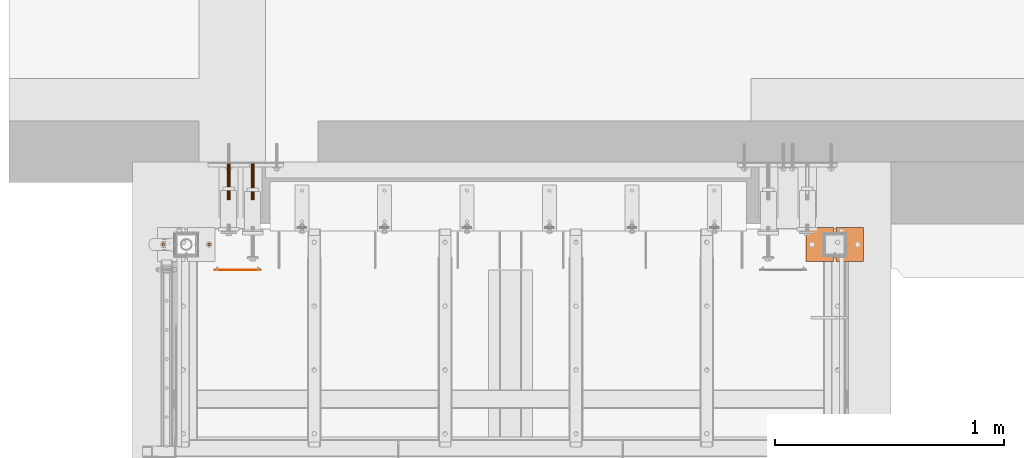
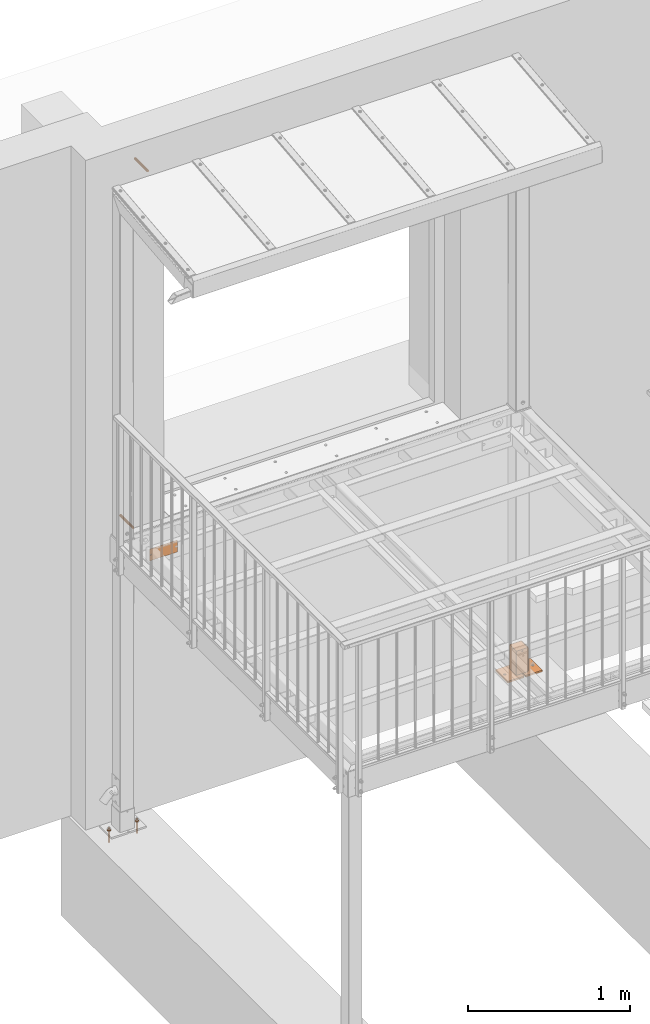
# One storey, part 95 of 116: 6 proxies.
"""IFC2X3 building model written with IfcOpenShell, lengths in millimetres."""

from ifc_helpers import new_model, entity, si_unit, converted_unit, origin_with_axes, place, context, project, spatial, faceted_brep, material, element, save


model = new_model("IFC2X3")

# Units and contexts
model_context = context("Model", 3, precision=1e-09, world=origin_with_axes())
ifc_project = project(units=[si_unit("LENGTHUNIT", "METRE", prefix="MILLI"), si_unit("AREAUNIT", "SQUARE_METRE"), si_unit("VOLUMEUNIT", "CUBIC_METRE"), converted_unit("PLANEANGLEUNIT", "DEGREE", entity("IfcPlaneAngleMeasure", 0.01745329), si_unit("PLANEANGLEUNIT", "RADIAN"), dimensions=[0, 0, 0, 0, 0, 0, 0])], contexts=[model_context])

# Site, building, storey
site_placement = place(None, origin_with_axes())
site = spatial("IfcSite", under=ifc_project, at=site_placement, Name="Site", CompositionType="ELEMENT")
building_placement = place(site_placement, origin_with_axes())
building = spatial("IfcBuilding", under=site, at=building_placement, Name="Struktur 1", CompositionType="ELEMENT")
storey_placement = place(building_placement, origin_with_axes())
storey = spatial("IfcBuildingStorey", under=building, at=storey_placement, Name="Default Storey", CompositionType="ELEMENT", Elevation=0.0)

# Proxies
ifc_material = material(Name="Kein")
proxy_1_placement = place(None, origin_with_axes())
element("IfcBuildingElementProxy", 1, at=proxy_1_placement, inside=storey, material=ifc_material, ObjectType="-", context=model_context, shape_type="Brep", body=[
    faceted_brep([(58275.050134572, 11962.358883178, -2009.0), (58275.050134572, 11962.358883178, -1997.0), (58273.978203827, 11966.359383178, -1997.0), (58273.978203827, 11966.359383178, -2009.0), (58271.049634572, 11969.287952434, -1997.0), (58271.049634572, 11969.287952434, -2009.0), (58273.978203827, 11958.358383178, -2009.0), (58273.978203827, 11958.358383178, -1997.0), (58271.049634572, 11955.429813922, -2009.0), (58271.049634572, 11955.429813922, -1997.0), (58292.049134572, 11887.358883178, -1997.0), (58292.049134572, 12037.358883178, -1997.0), (58172.049134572, 12037.358883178, -1997.0), (58172.049134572, 11887.358883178, -1997.0), (58267.049134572, 11954.357883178, -1997.0), (58263.048634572, 11955.429813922, -1997.0), (58260.120065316, 11958.358383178, -1997.0), (58259.048134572, 11962.358883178, -1997.0), (58260.120065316, 11966.359383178, -1997.0), (58263.048634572, 11969.287952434, -1997.0), (58267.049134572, 11970.359883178, -1997.0), (58267.049134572, 11970.359883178, -2009.0), (58292.049134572, 12037.358883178, -2009.0), (58292.049134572, 11887.358883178, -2009.0), (58172.049134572, 11887.358883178, -2009.0), (58172.049134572, 12037.358883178, -2009.0), (58263.048634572, 11969.287952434, -2009.0), (58260.120065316, 11966.359383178, -2009.0), (58259.048134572, 11962.358883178, -2009.0), (58260.120065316, 11958.358383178, -2009.0), (58263.048634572, 11955.429813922, -2009.0), (58267.049134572, 11954.357883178, -2009.0)], [[[0, 1, 2, 3]], [[3, 2, 4, 5]], [[1, 0, 6, 7]], [[7, 6, 8, 9]], [[10, 11, 12, 13], [7, 9, 14, 15, 16, 17, 18, 19, 20, 4, 2, 1]], [[5, 4, 20, 21]], [[22, 23, 24, 25], [21, 26, 27, 28, 29, 30, 31, 8, 6, 0, 3, 5]], [[9, 8, 31, 14]], [[21, 20, 19, 26]], [[11, 10, 23, 22]], [[14, 31, 30, 15]], [[24, 23, 10, 13]], [[12, 11, 22, 25]], [[26, 19, 18, 27]], [[25, 24, 13, 12]], [[15, 30, 29, 16]], [[27, 18, 17, 28]], [[16, 29, 28, 17]]]),
    faceted_brep([(58075.050134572, 11962.358883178, -2009.0), (58075.050134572, 11962.358883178, -1997.0), (58073.978203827, 11966.359383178, -1997.0), (58073.978203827, 11966.359383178, -2009.0), (58071.049634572, 11969.287952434, -1997.0), (58071.049634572, 11969.287952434, -2009.0), (58162.049134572, 11887.358883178, -1997.0), (58162.049134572, 12037.358883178, -1997.0), (58042.049134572, 12037.358883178, -1997.0), (58042.049134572, 11887.358883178, -1997.0), (58073.978203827, 11958.358383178, -1997.0), (58071.049634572, 11955.429813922, -1997.0), (58067.049134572, 11954.357883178, -1997.0), (58063.048634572, 11955.429813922, -1997.0), (58060.120065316, 11958.358383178, -1997.0), (58059.048134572, 11962.358883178, -1997.0), (58060.120065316, 11966.359383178, -1997.0), (58063.048634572, 11969.287952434, -1997.0), (58067.049134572, 11970.359883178, -1997.0), (58073.978203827, 11958.358383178, -2009.0), (58067.049134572, 11970.359883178, -2009.0), (58063.048634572, 11969.287952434, -2009.0), (58060.120065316, 11966.359383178, -2009.0), (58059.048134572, 11962.358883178, -2009.0), (58060.120065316, 11958.358383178, -2009.0), (58063.048634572, 11955.429813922, -2009.0), (58067.049134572, 11954.357883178, -2009.0), (58071.049634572, 11955.429813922, -2009.0), (58162.049134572, 11887.358883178, -2009.0), (58162.049134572, 12037.358883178, -2009.0), (58042.049134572, 12037.358883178, -2009.0), (58042.049134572, 11887.358883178, -2009.0)], [[[0, 1, 2, 3]], [[3, 2, 4, 5]], [[6, 7, 8, 9], [10, 11, 12, 13, 14, 15, 16, 17, 18, 4, 2, 1]], [[1, 0, 19, 10]], [[5, 4, 18, 20]], [[5, 20, 21, 22, 23, 24, 25, 26, 27, 19, 0, 3]], [[10, 19, 27, 11]], [[20, 18, 17, 21]], [[28, 29, 7, 6]], [[8, 7, 29, 30]], [[31, 28, 6, 9]], [[11, 27, 26, 12]], [[21, 17, 16, 22]], [[12, 26, 25, 13]], [[9, 8, 30, 31]], [[22, 16, 15, 23]], [[13, 25, 24, 14]], [[23, 15, 14, 24]]]),
    faceted_brep([(58210.977337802, 12003.358883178, -1817.0), (58210.977337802, 12003.358883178, -1997.0), (58208.049134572, 12006.287086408, -1997.0), (58208.049134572, 12006.287086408, -1817.0), (58207.513236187, 12001.358883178, -1817.0), (58208.049134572, 11999.358883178, -1817.0), (58208.049134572, 11925.358883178, -1817.0), (58207.513236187, 11923.358883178, -1817.0), (58206.049134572, 11921.894781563, -1817.0), (58204.049134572, 11921.358883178, -1817.0), (58130.049134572, 11921.358883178, -1817.0), (58128.049134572, 11921.894781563, -1817.0), (58126.585032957, 11923.358883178, -1817.0), (58126.049134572, 11925.358883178, -1817.0), (58126.049134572, 11999.358883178, -1817.0), (58126.585032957, 12001.358883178, -1817.0), (58128.049134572, 12002.822984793, -1817.0), (58130.049134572, 12003.358883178, -1817.0), (58204.049134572, 12003.358883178, -1817.0), (58206.049134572, 12002.822984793, -1817.0), (58206.049134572, 12002.822984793, -1997.0), (58207.513236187, 12001.358883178, -1997.0), (58212.049134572, 11999.358883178, -1997.0), (58212.049134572, 11925.358883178, -1997.0), (58210.977337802, 11921.358883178, -1997.0), (58208.049134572, 11918.430679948, -1997.0), (58204.049134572, 11917.358883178, -1997.0), (58130.049134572, 11917.358883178, -1997.0), (58126.049134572, 11918.430679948, -1997.0), (58123.120931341, 11921.358883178, -1997.0), (58122.049134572, 11925.358883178, -1997.0), (58122.049134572, 11999.358883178, -1997.0), (58123.120931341, 12003.358883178, -1997.0), (58126.049134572, 12006.287086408, -1997.0), (58130.049134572, 12007.358883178, -1997.0), (58204.049134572, 12007.358883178, -1997.0), (58204.049134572, 12003.358883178, -1997.0), (58130.049134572, 12003.358883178, -1997.0), (58128.049134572, 12002.822984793, -1997.0), (58126.585032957, 12001.358883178, -1997.0), (58126.049134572, 11999.358883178, -1997.0), (58126.049134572, 11925.358883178, -1997.0), (58126.585032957, 11923.358883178, -1997.0), (58128.049134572, 11921.894781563, -1997.0), (58130.049134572, 11921.358883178, -1997.0), (58204.049134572, 11921.358883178, -1997.0), (58206.049134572, 11921.894781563, -1997.0), (58207.513236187, 11923.358883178, -1997.0), (58208.049134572, 11925.358883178, -1997.0), (58208.049134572, 11999.358883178, -1997.0), (58212.049134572, 11999.358883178, -1817.0), (58204.049134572, 12007.358883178, -1817.0), (58212.049134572, 11925.358883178, -1817.0), (58130.049134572, 12007.358883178, -1817.0), (58210.977337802, 11921.358883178, -1817.0), (58126.049134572, 12006.287086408, -1817.0), (58172.050134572, 11921.358883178, -1827.0), (58172.050134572, 11917.358883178, -1827.0), (58171.380127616, 11917.358883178, -1824.4995), (58171.380127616, 11921.358883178, -1824.4995), (58171.380127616, 11921.358883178, -1829.5005), (58171.380127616, 11917.358883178, -1829.5005), (58169.549634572, 11917.358883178, -1822.669006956), (58169.549634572, 11921.358883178, -1822.669006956), (58204.049134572, 11917.358883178, -1817.0), (58130.049134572, 11917.358883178, -1817.0), (58169.549634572, 11917.358883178, -1831.330993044), (58167.049134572, 11917.358883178, -1832.001), (58164.548634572, 11917.358883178, -1831.330993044), (58162.718141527, 11917.358883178, -1829.5005), (58162.048134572, 11917.358883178, -1827.0), (58162.718141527, 11917.358883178, -1824.4995), (58164.548634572, 11917.358883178, -1822.669006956), (58167.049134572, 11917.358883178, -1821.999), (58208.049134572, 11918.430679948, -1817.0), (58167.049134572, 11921.358883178, -1821.999), (58164.548634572, 11921.358883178, -1822.669006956), (58162.718141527, 11921.358883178, -1824.4995), (58162.048134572, 11921.358883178, -1827.0), (58162.718141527, 11921.358883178, -1829.5005), (58164.548634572, 11921.358883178, -1831.330993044), (58167.049134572, 11921.358883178, -1832.001), (58169.549634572, 11921.358883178, -1831.330993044), (58123.120931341, 12003.358883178, -1817.0), (58122.049134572, 11999.358883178, -1817.0), (58122.049134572, 11925.358883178, -1817.0), (58123.120931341, 11921.358883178, -1817.0), (58126.049134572, 11918.430679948, -1817.0)], [[[0, 1, 2, 3]], [[4, 5, 6, 7, 8, 9, 10, 11, 12, 13, 14, 15, 16, 17, 18, 19]], [[19, 20, 21, 4]], [[22, 23, 24, 25, 26, 27, 28, 29, 30, 31, 32, 33, 34, 35, 2, 1], [21, 20, 36, 37, 38, 39, 40, 41, 42, 43, 44, 45, 46, 47, 48, 49]], [[1, 0, 50, 22]], [[20, 19, 18, 36]], [[3, 2, 35, 51]], [[4, 21, 49, 5]], [[23, 22, 50, 52]], [[37, 36, 18, 17]], [[53, 51, 35, 34]], [[6, 5, 49, 48]], [[23, 52, 54, 24]], [[37, 17, 16, 38]], [[53, 34, 33, 55]], [[56, 57, 58, 59]], [[6, 48, 47, 7]], [[57, 56, 60, 61]], [[59, 58, 62, 63]], [[64, 65, 27, 26], [61, 66, 67, 68, 69, 70, 71, 72, 73, 62, 58, 57]], [[24, 54, 74, 25]], [[7, 47, 46, 8]], [[9, 45, 44, 10], [59, 63, 75, 76, 77, 78, 79, 80, 81, 82, 60, 56]], [[38, 16, 15, 39]], [[55, 33, 32, 83]], [[63, 62, 73, 75]], [[75, 73, 72, 76]], [[45, 9, 8, 46]], [[61, 60, 82, 66]], [[76, 72, 71, 77]], [[25, 74, 64, 26]], [[66, 82, 81, 67]], [[67, 81, 80, 68]], [[39, 15, 14, 40]], [[83, 32, 31, 84]], [[77, 71, 70, 78]], [[69, 79, 78, 70]], [[68, 80, 79, 69]], [[41, 40, 14, 13]], [[85, 84, 31, 30]], [[41, 13, 12, 42]], [[10, 44, 43, 11]], [[11, 43, 42, 12]], [[85, 30, 29, 86]], [[27, 65, 87, 28]], [[86, 29, 28, 87]]]),
])
proxy_2_placement = place(None, origin_with_axes())
element("IfcBuildingElementProxy", 2, at=proxy_2_placement, inside=storey, material=ifc_material, ObjectType="-", context=model_context, shape_type="Brep", body=[
    faceted_brep([(55472.050548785, 11850.358883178, -119.001), (55472.050548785, 11852.358883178, -119.001), (55470.050048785, 11852.358883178, -118.46496764), (55470.050048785, 11850.358883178, -118.46496764), (55468.585581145, 11852.358883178, -117.0005), (55468.585581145, 11850.358883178, -117.0005), (55474.051048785, 11850.358883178, -118.46496764), (55474.051048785, 11852.358883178, -118.46496764), (55475.515516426, 11850.358883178, -117.0005), (55475.515516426, 11852.358883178, -117.0005), (55662.050548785, 11852.358883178, -160.0), (55462.050548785, 11852.358883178, -160.0), (55462.050548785, 11852.358883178, -70.0), (55662.050548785, 11852.358883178, -70.0), (55648.585581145, 11852.358883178, -117.0005), (55650.050048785, 11852.358883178, -118.46496764), (55652.050548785, 11852.358883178, -119.001), (55654.051048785, 11852.358883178, -118.46496764), (55655.515516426, 11852.358883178, -117.0005), (55656.051548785, 11852.358883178, -115.0), (55655.515516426, 11852.358883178, -112.9995), (55654.051048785, 11852.358883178, -111.535032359), (55652.050548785, 11852.358883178, -110.999), (55650.050048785, 11852.358883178, -111.535032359), (55648.585581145, 11852.358883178, -112.9995), (55648.049548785, 11852.358883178, -115.0), (55476.051548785, 11852.358883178, -115.0), (55475.515516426, 11852.358883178, -112.9995), (55474.051048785, 11852.358883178, -111.535032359), (55472.050548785, 11852.358883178, -110.999), (55470.050048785, 11852.358883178, -111.535032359), (55468.585581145, 11852.358883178, -112.9995), (55468.049548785, 11852.358883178, -115.0), (55650.050048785, 11850.358883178, -118.46496764), (55648.585581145, 11850.358883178, -117.0005), (55662.050548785, 11850.358883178, -160.0), (55662.050548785, 11850.358883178, -70.0), (55462.050548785, 11850.358883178, -70.0), (55462.050548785, 11850.358883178, -160.0), (55650.050048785, 11850.358883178, -111.535032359), (55652.050548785, 11850.358883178, -110.999), (55654.051048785, 11850.358883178, -111.535032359), (55655.515516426, 11850.358883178, -112.9995), (55656.051548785, 11850.358883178, -115.0), (55655.515516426, 11850.358883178, -117.0005), (55654.051048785, 11850.358883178, -118.46496764), (55652.050548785, 11850.358883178, -119.001), (55648.049548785, 11850.358883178, -115.0), (55648.585581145, 11850.358883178, -112.9995), (55468.049548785, 11850.358883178, -115.0), (55468.585581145, 11850.358883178, -112.9995), (55470.050048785, 11850.358883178, -111.535032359), (55472.050548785, 11850.358883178, -110.999), (55474.051048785, 11850.358883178, -111.535032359), (55475.515516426, 11850.358883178, -112.9995), (55476.051548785, 11850.358883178, -115.0)], [[[0, 1, 2, 3]], [[3, 2, 4, 5]], [[1, 0, 6, 7]], [[7, 6, 8, 9]], [[10, 11, 12, 13], [14, 15, 16, 17, 18, 19, 20, 21, 22, 23, 24, 25], [1, 7, 9, 26, 27, 28, 29, 30, 31, 32, 4, 2]], [[33, 15, 14, 34]], [[35, 36, 37, 38], [39, 40, 41, 42, 43, 44, 45, 46, 33, 34, 47, 48], [0, 3, 5, 49, 50, 51, 52, 53, 54, 55, 8, 6]], [[15, 33, 46, 16]], [[5, 4, 32, 49]], [[9, 8, 55, 26]], [[16, 46, 45, 17]], [[49, 32, 31, 50]], [[34, 14, 25, 47]], [[17, 45, 44, 18]], [[11, 10, 35, 38]], [[50, 31, 30, 51]], [[26, 55, 54, 27]], [[18, 44, 43, 19]], [[38, 37, 12, 11]], [[51, 30, 29, 52]], [[28, 53, 52, 29]], [[27, 54, 53, 28]], [[47, 25, 24, 48]], [[10, 13, 36, 35]], [[13, 12, 37, 36]], [[19, 43, 42, 20]], [[48, 24, 23, 39]], [[20, 42, 41, 21]], [[39, 23, 22, 40]], [[21, 41, 40, 22]]]),
])
proxy_3_placement = place(None, origin_with_axes())
element("IfcBuildingElementProxy", 3, at=proxy_3_placement, inside=storey, material=ifc_material, ObjectType="-", context=model_context, shape_type="Brep", body=[
    faceted_brep([(55522.049134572, 12156.357883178, -123.0), (55522.049134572, 12316.357883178, -123.0), (55526.049134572, 12316.357883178, -121.92820323), (55526.049134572, 12156.357883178, -121.92820323), (55518.049134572, 12156.357883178, -121.92820323), (55518.049134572, 12316.357883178, -121.92820323), (55518.049134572, 12156.357883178, -108.07179677), (55515.120931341, 12156.357883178, -111.0), (55514.049134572, 12156.357883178, -115.0), (55515.120931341, 12156.357883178, -119.0), (55528.977337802, 12156.357883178, -119.0), (55530.049134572, 12156.357883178, -115.0), (55528.977337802, 12156.357883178, -111.0), (55526.049134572, 12156.357883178, -108.07179677), (55522.049134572, 12156.357883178, -107.0), (55526.049134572, 12316.357883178, -108.07179677), (55528.977337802, 12316.357883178, -111.0), (55530.049134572, 12316.357883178, -115.0), (55528.977337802, 12316.357883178, -119.0), (55515.120931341, 12316.357883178, -119.0), (55514.049134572, 12316.357883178, -115.0), (55515.120931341, 12316.357883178, -111.0), (55518.049134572, 12316.357883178, -108.07179677), (55522.049134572, 12316.357883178, -107.0)], [[[0, 1, 2, 3]], [[1, 0, 4, 5]], [[6, 7, 8, 9, 4, 0, 3, 10, 11, 12, 13, 14]], [[15, 16, 17, 18, 2, 1, 5, 19, 20, 21, 22, 23]], [[3, 2, 18, 10]], [[5, 4, 9, 19]], [[17, 11, 10, 18]], [[16, 12, 11, 17]], [[19, 9, 8, 20]], [[13, 15, 23, 14]], [[12, 16, 15, 13]], [[14, 23, 22, 6]], [[20, 8, 7, 21]], [[6, 22, 21, 7]]]),
])
proxy_4_placement = place(None, origin_with_axes())
element("IfcBuildingElementProxy", 4, at=proxy_4_placement, inside=storey, material=ifc_material, ObjectType="-", context=model_context, shape_type="Brep", body=[
    faceted_brep([(55627.049134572, 12156.357883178, 2537.0), (55627.049134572, 12316.357883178, 2537.0), (55631.049134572, 12316.357883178, 2538.07179677), (55631.049134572, 12156.357883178, 2538.07179677), (55623.049134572, 12156.357883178, 2538.07179677), (55623.049134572, 12316.357883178, 2538.07179677), (55623.049134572, 12156.357883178, 2551.92820323), (55620.120931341, 12156.357883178, 2549.0), (55619.049134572, 12156.357883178, 2545.0), (55620.120931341, 12156.357883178, 2541.0), (55633.977337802, 12156.357883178, 2541.0), (55635.049134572, 12156.357883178, 2545.0), (55633.977337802, 12156.357883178, 2549.0), (55631.049134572, 12156.357883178, 2551.92820323), (55627.049134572, 12156.357883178, 2553.0), (55631.049134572, 12316.357883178, 2551.92820323), (55633.977337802, 12316.357883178, 2549.0), (55635.049134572, 12316.357883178, 2545.0), (55633.977337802, 12316.357883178, 2541.0), (55620.120931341, 12316.357883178, 2541.0), (55619.049134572, 12316.357883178, 2545.0), (55620.120931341, 12316.357883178, 2549.0), (55623.049134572, 12316.357883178, 2551.92820323), (55627.049134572, 12316.357883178, 2553.0)], [[[0, 1, 2, 3]], [[1, 0, 4, 5]], [[6, 7, 8, 9, 4, 0, 3, 10, 11, 12, 13, 14]], [[15, 16, 17, 18, 2, 1, 5, 19, 20, 21, 22, 23]], [[3, 2, 18, 10]], [[5, 4, 9, 19]], [[17, 11, 10, 18]], [[16, 12, 11, 17]], [[19, 9, 8, 20]], [[13, 15, 23, 14]], [[12, 16, 15, 13]], [[14, 23, 22, 6]], [[20, 8, 7, 21]], [[6, 22, 21, 7]]]),
])
proxy_5_placement = place(None, origin_with_axes())
element("IfcBuildingElementProxy", 5, at=proxy_5_placement, inside=storey, material=ifc_material, ObjectType="-", context=model_context, shape_type="Brep", body=[
    faceted_brep([(55434.049134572, 11957.162730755, -2180.0), (55434.049134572, 11957.162730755, -2164.5), (55431.852982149, 11959.358883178, -2164.5), (55431.852982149, 11959.358883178, -2180.0), (55426.656829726, 11968.358883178, -2180.0), (55425.049134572, 11962.358883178, -2180.0), (55426.656829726, 11956.358883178, -2180.0), (55431.049134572, 11951.966578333, -2180.0), (55437.049134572, 11950.358883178, -2180.0), (55443.049134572, 11951.966578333, -2180.0), (55447.441439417, 11956.358883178, -2180.0), (55449.049134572, 11962.358883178, -2180.0), (55447.441439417, 11968.358883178, -2180.0), (55443.049134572, 11972.751188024, -2180.0), (55437.049134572, 11974.358883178, -2180.0), (55431.049134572, 11972.751188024, -2180.0), (55431.049134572, 11962.358883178, -2180.0), (55431.852982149, 11965.358883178, -2180.0), (55434.049134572, 11967.555035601, -2180.0), (55437.049134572, 11968.358883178, -2180.0), (55440.049134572, 11967.555035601, -2180.0), (55442.245286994, 11965.358883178, -2180.0), (55443.049134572, 11962.358883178, -2180.0), (55442.245286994, 11959.358883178, -2180.0), (55440.049134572, 11957.162730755, -2180.0), (55437.049134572, 11956.358883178, -2180.0), (55437.049134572, 11956.358883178, -2164.5), (55426.656829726, 11956.358883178, -2182.5), (55431.049134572, 11951.966578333, -2182.5), (55442.245286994, 11965.358883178, -2164.5), (55440.049134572, 11967.555035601, -2164.5), (55437.049134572, 11968.358883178, -2164.5), (55434.049134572, 11967.555035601, -2164.5), (55431.852982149, 11965.358883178, -2164.5), (55431.049134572, 11962.358883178, -2164.5), (55440.049134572, 11957.162730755, -2164.5), (55442.245286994, 11959.358883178, -2164.5), (55443.049134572, 11962.358883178, -2164.5), (55443.049134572, 11951.966578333, -2182.5), (55437.049134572, 11950.358883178, -2182.5), (55425.049134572, 11962.358883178, -2182.5), (55426.656829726, 11968.358883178, -2182.5), (55431.049134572, 11972.751188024, -2182.5), (55437.049134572, 11974.358883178, -2182.5), (55443.049134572, 11972.751188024, -2182.5), (55447.441439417, 11968.358883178, -2182.5), (55449.049134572, 11962.358883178, -2182.5), (55447.441439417, 11956.358883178, -2182.5), (55437.049134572, 11956.358883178, -2182.5), (55440.049134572, 11957.162730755, -2182.5), (55442.245286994, 11959.358883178, -2182.5), (55443.049134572, 11962.358883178, -2182.5), (55442.245286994, 11965.358883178, -2182.5), (55440.049134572, 11967.555035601, -2182.5), (55437.049134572, 11968.358883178, -2182.5), (55434.049134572, 11967.555035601, -2182.5), (55431.852982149, 11965.358883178, -2182.5), (55431.049134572, 11962.358883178, -2182.5), (55431.852982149, 11959.358883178, -2182.5), (55434.049134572, 11957.162730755, -2182.5), (55434.049134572, 11957.162730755, -2274.5), (55437.049134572, 11956.358883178, -2274.5), (55431.852982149, 11959.358883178, -2274.5), (55431.049134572, 11962.358883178, -2274.5), (55431.852982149, 11965.358883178, -2274.5), (55434.049134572, 11967.555035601, -2274.5), (55437.049134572, 11968.358883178, -2274.5), (55440.049134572, 11967.555035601, -2274.5), (55442.245286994, 11965.358883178, -2274.5), (55443.049134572, 11962.358883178, -2274.5), (55442.245286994, 11959.358883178, -2274.5), (55440.049134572, 11957.162730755, -2274.5)], [[[0, 1, 2, 3]], [[4, 5, 6, 7, 8, 9, 10, 11, 12, 13, 14, 15], [3, 16, 17, 18, 19, 20, 21, 22, 23, 24, 25, 0]], [[1, 0, 25, 26]], [[6, 27, 28, 7]], [[29, 30, 31, 32, 33, 34, 2, 1, 26, 35, 36, 37]], [[38, 39, 28, 27, 40, 41, 42, 43, 44, 45, 46, 47], [48, 49, 50, 51, 52, 53, 54, 55, 56, 57, 58, 59]], [[27, 6, 5, 40]], [[3, 2, 34, 16]], [[7, 28, 39, 8]], [[26, 25, 24, 35]], [[59, 60, 61, 48]], [[58, 62, 60, 59]], [[57, 63, 62, 58]], [[56, 64, 63, 57]], [[40, 5, 4, 41]], [[16, 34, 33, 17]], [[35, 24, 23, 36]], [[64, 65, 66, 67, 68, 69, 70, 71, 61, 60, 62, 63]], [[48, 61, 71, 49]], [[8, 39, 38, 9]], [[64, 56, 55, 65]], [[36, 23, 22, 37]], [[65, 55, 54, 66]], [[41, 4, 15, 42]], [[17, 33, 32, 18]], [[70, 50, 49, 71]], [[9, 38, 47, 10]], [[37, 22, 21, 29]], [[50, 70, 69, 51]], [[68, 52, 51, 69]], [[67, 53, 52, 68]], [[66, 54, 53, 67]], [[42, 15, 14, 43]], [[18, 32, 31, 19]], [[10, 47, 46, 11]], [[30, 20, 19, 31]], [[29, 21, 20, 30]], [[43, 14, 13, 44]], [[11, 46, 45, 12]], [[44, 13, 12, 45]]]),
])
proxy_6_placement = place(None, origin_with_axes())
element("IfcBuildingElementProxy", 6, at=proxy_6_placement, inside=storey, material=ifc_material, ObjectType="-", context=model_context, shape_type="Brep", body=[
    faceted_brep([(55234.049134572, 11957.162730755, -2180.0), (55234.049134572, 11957.162730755, -2164.5), (55231.852982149, 11959.358883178, -2164.5), (55231.852982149, 11959.358883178, -2180.0), (55226.656829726, 11968.358883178, -2180.0), (55225.049134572, 11962.358883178, -2180.0), (55226.656829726, 11956.358883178, -2180.0), (55231.049134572, 11951.966578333, -2180.0), (55237.049134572, 11950.358883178, -2180.0), (55243.049134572, 11951.966578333, -2180.0), (55247.441439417, 11956.358883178, -2180.0), (55249.049134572, 11962.358883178, -2180.0), (55247.441439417, 11968.358883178, -2180.0), (55243.049134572, 11972.751188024, -2180.0), (55237.049134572, 11974.358883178, -2180.0), (55231.049134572, 11972.751188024, -2180.0), (55231.049134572, 11962.358883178, -2180.0), (55231.852982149, 11965.358883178, -2180.0), (55234.049134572, 11967.555035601, -2180.0), (55237.049134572, 11968.358883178, -2180.0), (55240.049134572, 11967.555035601, -2180.0), (55242.245286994, 11965.358883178, -2180.0), (55243.049134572, 11962.358883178, -2180.0), (55242.245286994, 11959.358883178, -2180.0), (55240.049134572, 11957.162730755, -2180.0), (55237.049134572, 11956.358883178, -2180.0), (55237.049134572, 11956.358883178, -2164.5), (55226.656829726, 11956.358883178, -2182.5), (55231.049134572, 11951.966578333, -2182.5), (55242.245286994, 11965.358883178, -2164.5), (55240.049134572, 11967.555035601, -2164.5), (55237.049134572, 11968.358883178, -2164.5), (55234.049134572, 11967.555035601, -2164.5), (55231.852982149, 11965.358883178, -2164.5), (55231.049134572, 11962.358883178, -2164.5), (55240.049134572, 11957.162730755, -2164.5), (55242.245286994, 11959.358883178, -2164.5), (55243.049134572, 11962.358883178, -2164.5), (55243.049134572, 11951.966578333, -2182.5), (55237.049134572, 11950.358883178, -2182.5), (55225.049134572, 11962.358883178, -2182.5), (55226.656829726, 11968.358883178, -2182.5), (55231.049134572, 11972.751188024, -2182.5), (55237.049134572, 11974.358883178, -2182.5), (55243.049134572, 11972.751188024, -2182.5), (55247.441439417, 11968.358883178, -2182.5), (55249.049134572, 11962.358883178, -2182.5), (55247.441439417, 11956.358883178, -2182.5), (55237.049134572, 11956.358883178, -2182.5), (55240.049134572, 11957.162730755, -2182.5), (55242.245286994, 11959.358883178, -2182.5), (55243.049134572, 11962.358883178, -2182.5), (55242.245286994, 11965.358883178, -2182.5), (55240.049134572, 11967.555035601, -2182.5), (55237.049134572, 11968.358883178, -2182.5), (55234.049134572, 11967.555035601, -2182.5), (55231.852982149, 11965.358883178, -2182.5), (55231.049134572, 11962.358883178, -2182.5), (55231.852982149, 11959.358883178, -2182.5), (55234.049134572, 11957.162730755, -2182.5), (55234.049134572, 11957.162730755, -2274.5), (55237.049134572, 11956.358883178, -2274.5), (55231.852982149, 11959.358883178, -2274.5), (55231.049134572, 11962.358883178, -2274.5), (55231.852982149, 11965.358883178, -2274.5), (55234.049134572, 11967.555035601, -2274.5), (55237.049134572, 11968.358883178, -2274.5), (55240.049134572, 11967.555035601, -2274.5), (55242.245286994, 11965.358883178, -2274.5), (55243.049134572, 11962.358883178, -2274.5), (55242.245286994, 11959.358883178, -2274.5), (55240.049134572, 11957.162730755, -2274.5)], [[[0, 1, 2, 3]], [[4, 5, 6, 7, 8, 9, 10, 11, 12, 13, 14, 15], [3, 16, 17, 18, 19, 20, 21, 22, 23, 24, 25, 0]], [[1, 0, 25, 26]], [[6, 27, 28, 7]], [[29, 30, 31, 32, 33, 34, 2, 1, 26, 35, 36, 37]], [[38, 39, 28, 27, 40, 41, 42, 43, 44, 45, 46, 47], [48, 49, 50, 51, 52, 53, 54, 55, 56, 57, 58, 59]], [[27, 6, 5, 40]], [[3, 2, 34, 16]], [[7, 28, 39, 8]], [[26, 25, 24, 35]], [[59, 60, 61, 48]], [[58, 62, 60, 59]], [[57, 63, 62, 58]], [[56, 64, 63, 57]], [[40, 5, 4, 41]], [[16, 34, 33, 17]], [[35, 24, 23, 36]], [[64, 65, 66, 67, 68, 69, 70, 71, 61, 60, 62, 63]], [[48, 61, 71, 49]], [[8, 39, 38, 9]], [[64, 56, 55, 65]], [[36, 23, 22, 37]], [[65, 55, 54, 66]], [[41, 4, 15, 42]], [[17, 33, 32, 18]], [[70, 50, 49, 71]], [[9, 38, 47, 10]], [[37, 22, 21, 29]], [[50, 70, 69, 51]], [[68, 52, 51, 69]], [[67, 53, 52, 68]], [[66, 54, 53, 67]], [[42, 15, 14, 43]], [[18, 32, 31, 19]], [[10, 47, 46, 11]], [[30, 20, 19, 31]], [[29, 21, 20, 30]], [[43, 14, 13, 44]], [[11, 46, 45, 12]], [[44, 13, 12, 45]]]),
])

save(model, "model.ifc")
